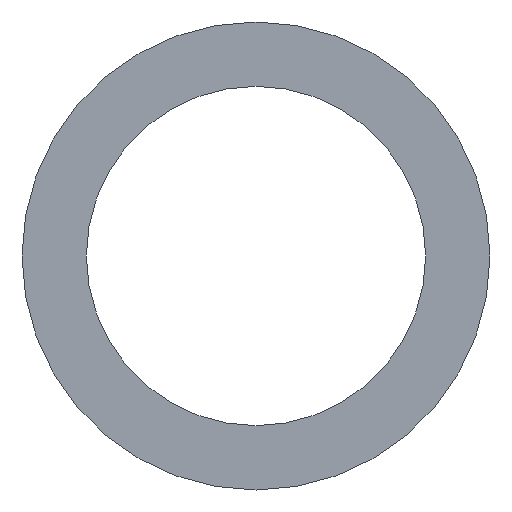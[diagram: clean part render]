
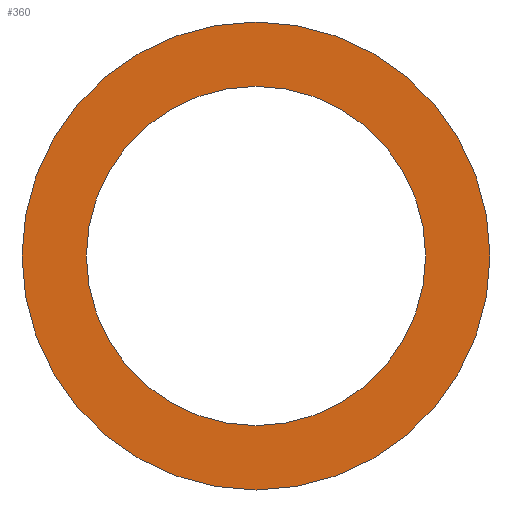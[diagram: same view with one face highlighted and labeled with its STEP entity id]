
A CAD part, left-side view. The second image highlights one B-rep face of the part: STEP entity #360.
In plain terms, the highlighted planar face has unit normal (-1, 0, 0).
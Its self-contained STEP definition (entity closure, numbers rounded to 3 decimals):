
#10=CARTESIAN_POINT('',(80.523,114.132,0.));
#20=DIRECTION('',(-1.,0.,0.));
#30=DIRECTION('',(0.,1.,0.));
#40=AXIS2_PLACEMENT_3D('',#10,#20,#30);
#50=PLANE('',#40);
#60=CARTESIAN_POINT('',(80.523,107.232,0.));
#70=DIRECTION('',(1.,0.,0.));
#80=DIRECTION('',(0.,1.,0.));
#90=AXIS2_PLACEMENT_3D('',#60,#70,#80);
#100=CIRCLE('',#90,5.8);
#110=CARTESIAN_POINT('',(80.523,113.032,
0.));
#120=VERTEX_POINT('',#110);
#130=CARTESIAN_POINT('',(80.523,101.432,0.));
#140=VERTEX_POINT('',#130);
#150=EDGE_CURVE('',#120,#140,#100,.T.);
#160=ORIENTED_EDGE('',*,*,#150,.T.);
#170=EDGE_CURVE('',#140,#120,#100,.T.);
#180=ORIENTED_EDGE('',*,*,#170,.T.);
#190=EDGE_LOOP('',(#180,#160));
#200=FACE_BOUND('',#190,.T.);
#210=CARTESIAN_POINT('',(80.523,107.232,0.));
#220=DIRECTION('',(1.,0.,0.));
#230=DIRECTION('',(0.,1.,0.));
#240=AXIS2_PLACEMENT_3D('',#210,#220,#230);
#250=CIRCLE('',#240,8.);
#260=CARTESIAN_POINT('',(80.523,115.232,
0.));
#270=VERTEX_POINT('',#260);
#280=CARTESIAN_POINT('',(80.523,99.232,0.));
#290=VERTEX_POINT('',#280);
#300=EDGE_CURVE('',#270,#290,#250,.T.);
#310=ORIENTED_EDGE('',*,*,#300,.F.);
#320=EDGE_CURVE('',#290,#270,#250,.T.);
#330=ORIENTED_EDGE('',*,*,#320,.F.);
#340=EDGE_LOOP('',(#330,#310));
#350=FACE_OUTER_BOUND('',#340,.T.);
#360=ADVANCED_FACE('',(#200,#350),#50,.T.);
